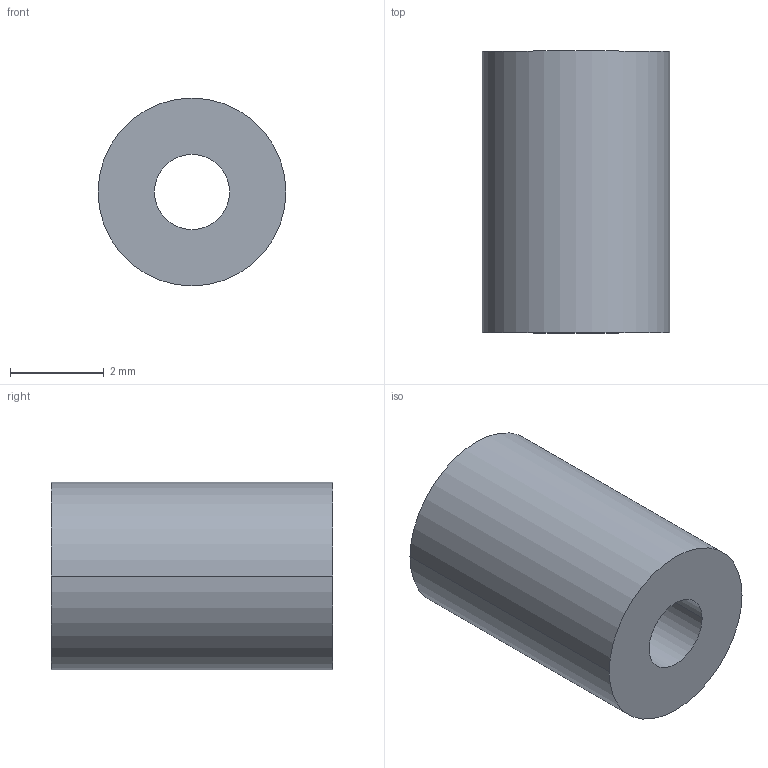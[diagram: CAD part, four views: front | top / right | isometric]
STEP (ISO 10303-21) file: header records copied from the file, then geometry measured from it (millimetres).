
FILE_DESCRIPTION (( 'STEP AP203' ), '1' );
FILE_NAME ('30800.WPP4A1.6.step', '2019-01-23T22:14:52', ( '' ), ( '' ), 'SwSTEP 2.0', 'SolidWorks 2017', '' );
FILE_SCHEMA (( 'CONFIG_CONTROL_DESIGN' ));
Length unit declared in the file: millimetre
Products named in the file (1): 30800.WPP4A1.6
Bounding box: 4 x 6 x 4 mm (x, y, z)
Volume: 62 mm3; surface area: 125 mm2
Topology: 1 solids, 1 shells, 8 faces, 16 edges, 10 vertices
Faces by surface type: cylinder 4, torus 2, plane 2
Entity records: 297 total; most frequent: DIRECTION 46, CARTESIAN_POINT 35, ORIENTED_EDGE 32, AXIS2_PLACEMENT_3D 21, EDGE_CURVE 16, CIRCLE 12, VERTEX_POINT 10, EDGE_LOOP 10
